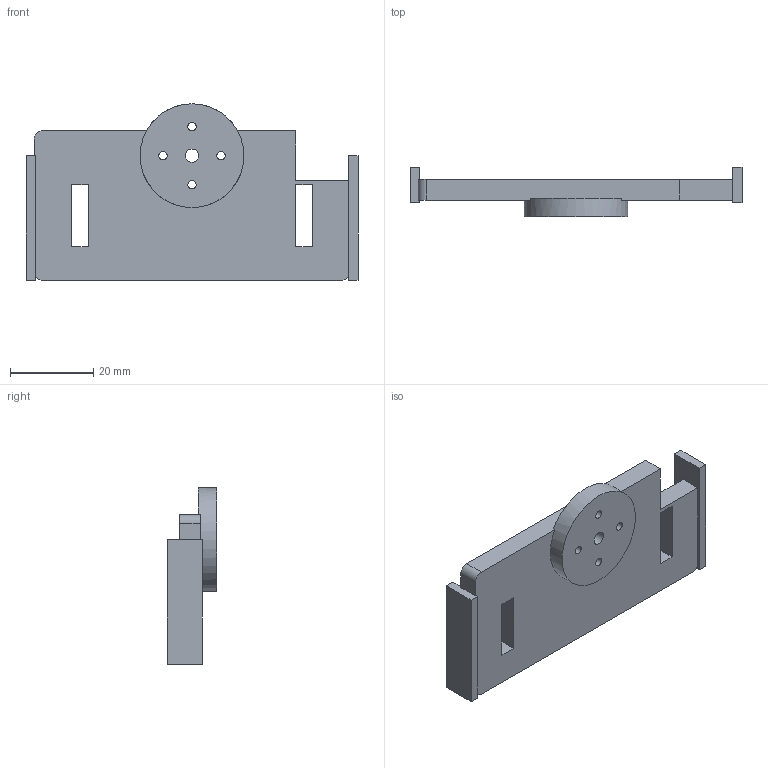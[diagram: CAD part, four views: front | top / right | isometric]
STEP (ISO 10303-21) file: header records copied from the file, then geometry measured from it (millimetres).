
FILE_DESCRIPTION(('Open CASCADE Model'),'2;1');
FILE_NAME('Open CASCADE Shape Model','2026-08-26T11:10:48',('Author'),( 'Open CASCADE'),'Open CASCADE STEP processor 7.9','Open CASCADE 7.9' ,'Unknown');
FILE_SCHEMA(('AUTOMOTIVE_DESIGN { 1 0 10303 214 1 1 1 1 }'));
Length unit declared in the file: millimetre
Products named in the file (1): Open CASCADE STEP translator 7.9 3
Bounding box: 80 x 12 x 42.5 mm (x, y, z)
Volume: 15200.8 mm3; surface area: 7987.1 mm2
Topology: 1 solids, 1 shells, 38 faces, 107 edges, 71 vertices
Faces by surface type: plane 29, cylinder 9
Full cylindrical faces by diameter (mm): 2 x4, 3.2 x1, 25 x1
Entity records: 2598 total; most frequent: CARTESIAN_POINT 509, DIRECTION 353, ORIENTED_EDGE 214, LINE 214, VECTOR 214, PCURVE 214, DEFINITIONAL_REPRESENTATION 214, EDGE_CURVE 107
